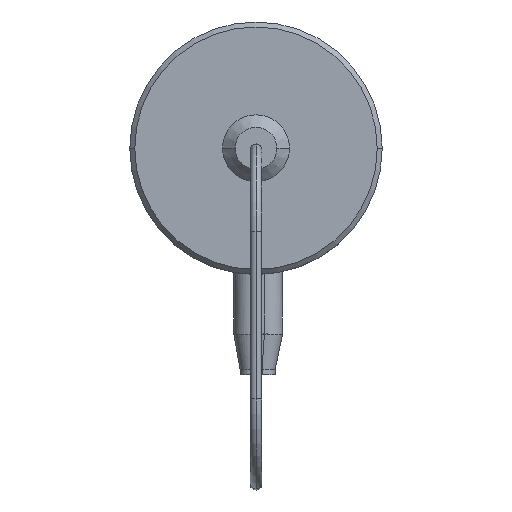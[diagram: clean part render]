
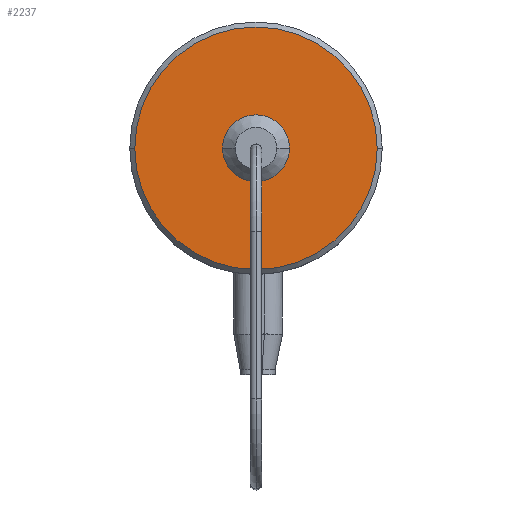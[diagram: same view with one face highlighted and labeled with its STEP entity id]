
A CAD part, top view. The second image highlights one B-rep face of the part: STEP entity #2237.
In plain terms, the highlighted planar face has unit normal (0, 0, 1).
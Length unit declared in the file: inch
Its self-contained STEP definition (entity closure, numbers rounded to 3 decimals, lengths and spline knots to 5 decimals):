
#128 = CIRCLE ( 'NONE', #2713, 0.725 ) ;
#259 = DIRECTION ( 'NONE',  ( -1., 0., 0. ) ) ;
#370 = ORIENTED_EDGE ( 'NONE', *, *, #2654, .T. ) ;
#424 = AXIS2_PLACEMENT_3D ( 'NONE', #3201, #2917, #3509 ) ;
#469 = CIRCLE ( 'NONE', #3720, 0.725 ) ;
#514 = CARTESIAN_POINT ( 'NONE',  ( 0., 0., -0.075 ) ) ;
#565 = FACE_BOUND ( 'NONE', #1449, .T. ) ;
#637 = CARTESIAN_POINT ( 'NONE',  ( -0.725, 0., -0.075 ) ) ;
#746 = EDGE_CURVE ( 'NONE', #1341, #1685, #3673, .T. ) ;
#748 = VERTEX_POINT ( 'NONE', #637 ) ;
#876 = CARTESIAN_POINT ( 'NONE',  ( 0., 0., -0.075 ) ) ;
#1019 = DIRECTION ( 'NONE',  ( -1., 0., 0. ) ) ;
#1064 = AXIS2_PLACEMENT_3D ( 'NONE', #1439, #1456, #2918 ) ;
#1283 = DIRECTION ( 'NONE',  ( 0., 0., 1. ) ) ;
#1310 = DIRECTION ( 'NONE',  ( 0., 0., 1. ) ) ;
#1341 = VERTEX_POINT ( 'NONE', #2043 ) ;
#1439 = CARTESIAN_POINT ( 'NONE',  ( 0., 0.755, -0.075 ) ) ;
#1449 = EDGE_LOOP ( 'NONE', ( #2066, #370 ) ) ;
#1456 = DIRECTION ( 'NONE',  ( 0., 0., -1. ) ) ;
#1468 = ORIENTED_EDGE ( 'NONE', *, *, #1683, .T. ) ;
#1683 = EDGE_CURVE ( 'NONE', #748, #2297, #128, .T. ) ;
#1685 = VERTEX_POINT ( 'NONE', #2196 ) ;
#1930 = FACE_OUTER_BOUND ( 'NONE', #3727, .T. ) ;
#1960 = DIRECTION ( 'NONE',  ( -1., 0., 0. ) ) ;
#2043 = CARTESIAN_POINT ( 'NONE',  ( -0.2, 0., -0.075 ) ) ;
#2066 = ORIENTED_EDGE ( 'NONE', *, *, #746, .T. ) ;
#2196 = CARTESIAN_POINT ( 'NONE',  ( 0.2, 0., -0.075 ) ) ;
#2237 = ADVANCED_FACE ( 'NONE', ( #1930, #565 ), #3182, .F. ) ;
#2297 = VERTEX_POINT ( 'NONE', #2326 ) ;
#2326 = CARTESIAN_POINT ( 'NONE',  ( 0.725, 0., -0.075 ) ) ;
#2470 = EDGE_CURVE ( 'NONE', #2297, #748, #469, .T. ) ;
#2497 = CARTESIAN_POINT ( 'NONE',  ( 0., 0., -0.075 ) ) ;
#2654 = EDGE_CURVE ( 'NONE', #1685, #1341, #3416, .T. ) ;
#2713 = AXIS2_PLACEMENT_3D ( 'NONE', #514, #1310, #1019 ) ;
#2917 = DIRECTION ( 'NONE',  ( 0., 0., -1. ) ) ;
#2918 = DIRECTION ( 'NONE',  ( -1., 0., 0. ) ) ;
#3109 = ORIENTED_EDGE ( 'NONE', *, *, #2470, .T. ) ;
#3182 = PLANE ( 'NONE',  #1064 ) ;
#3201 = CARTESIAN_POINT ( 'NONE',  ( 0., 0., -0.075 ) ) ;
#3416 = CIRCLE ( 'NONE', #3536, 0.2 ) ;
#3419 = DIRECTION ( 'NONE',  ( 0., 0., -1. ) ) ;
#3509 = DIRECTION ( 'NONE',  ( -1., 0., 0. ) ) ;
#3536 = AXIS2_PLACEMENT_3D ( 'NONE', #876, #3419, #259 ) ;
#3673 = CIRCLE ( 'NONE', #424, 0.2 ) ;
#3720 = AXIS2_PLACEMENT_3D ( 'NONE', #2497, #1283, #1960 ) ;
#3727 = EDGE_LOOP ( 'NONE', ( #1468, #3109 ) ) ;
